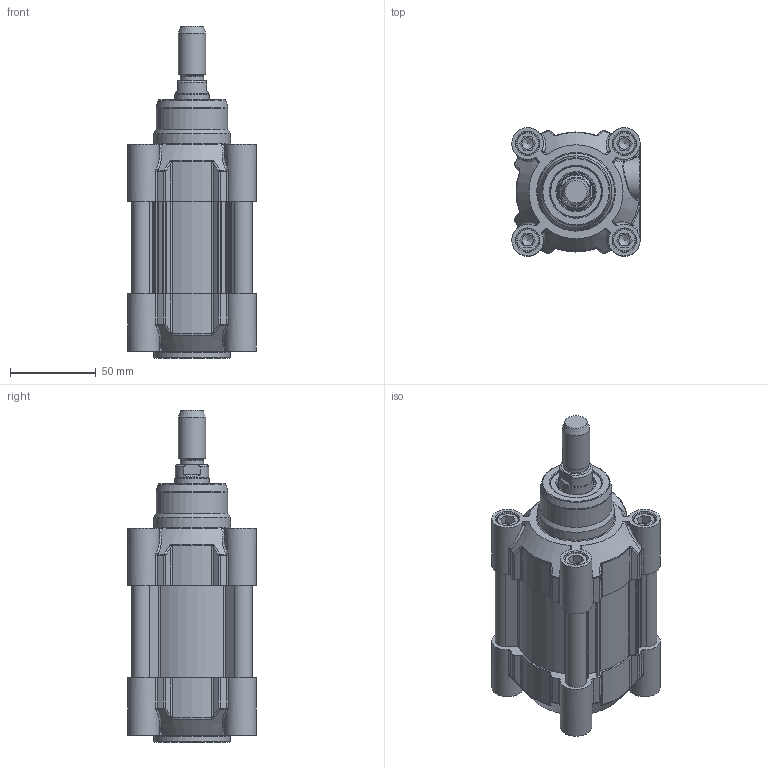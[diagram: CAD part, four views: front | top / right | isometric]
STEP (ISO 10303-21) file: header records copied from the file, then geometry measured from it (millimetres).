
FILE_DESCRIPTION(/* description */ ('CILINDRO D.E. MAGNETICO AMMORTIZZATO ISO 15552'),/* implementation_level */ '2;1');
FILE_NAME(/* name */ 'T:\Archivio Inventor\- 00 NUOVI STP PER SITO CON STELO CHE SI MUOVE\SERIE H - U\SERIE HDM\HDM063 - TUBO NUOVO\HDM063.000.GS.M.stp',/* time_stamp */ '2018-07-30T10:26:58+02:00',/* author */ ('carlo.corazza'),/* organization */ (''),/* preprocessor_version */ 'ST-DEVELOPER v16.5',/* originating_system */ 'Autodesk Inventor 2017',/* authorisation */ '');
FILE_SCHEMA (('AUTOMOTIVE_DESIGN { 1 0 10303 214 3 1 1 }'));
Length unit declared in the file: millimetre
Products named in the file (5): HDM063.000.GS.M; TP; TA; STELO-000; CORPO-000
Assembly tree (4 placements, depth 2):
  HDM063.000.GS.M
    TP
    TA
    STELO-000
    CORPO-000
Bounding box: 75 x 75 x 194 mm (x, y, z)
Volume: 375509 mm3; surface area: 136758.3 mm2
Topology: 4 solids, 27 shells, 1241 faces, 2936 edges, 1818 vertices
Faces by surface type: plane 368, cylinder 297, bspline 288, torus 108, cone 106, sphere 74
Full cylindrical faces by diameter (mm): 3 x2, 3.4 x2, 4.8 x2, 5.25 x2, 6.647 x8, 8 x8, 8.3 x12, 9.8 x4, 9.9 x2, 10 x6, 12 x3, 13 x8, 13.3 x8, 13.5 x1, 14.95 x2, 16 x1, 19.5 x1, 20 x1, 20.8 x1, 20.847 x1, 24 x1, 26 x2, 30 x3, 42 x1, 45 x2, 63 x1
Entity records: 40768 total; most frequent: CARTESIAN_POINT 13071, ORIENTED_EDGE 5326, DIRECTION 5100, EDGE_CURVE 2663, AXIS2_PLACEMENT_3D 2037, VERTEX_POINT 1763, EDGE_LOOP 1576, STYLED_ITEM 1245
